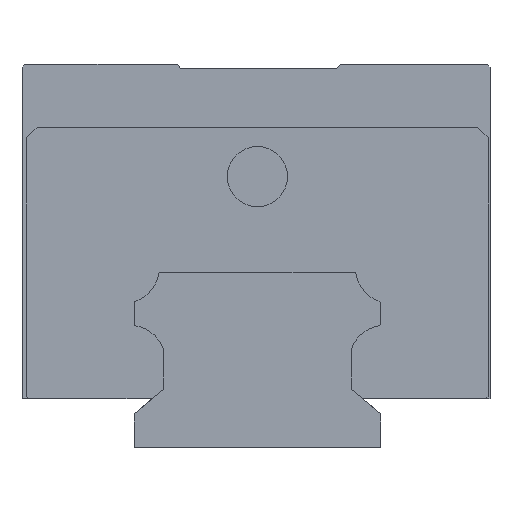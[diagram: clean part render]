
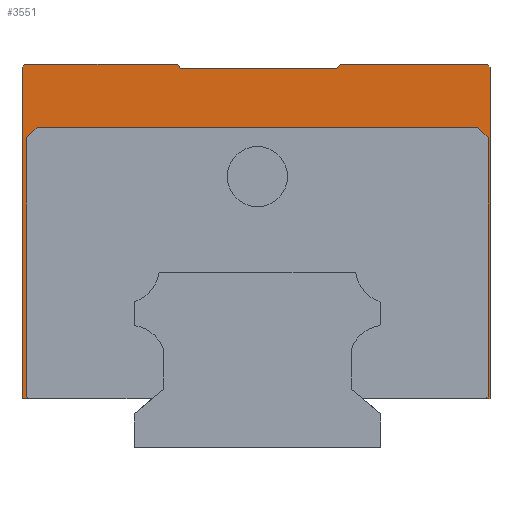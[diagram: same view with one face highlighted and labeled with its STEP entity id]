
A CAD part, left-side view. The second image highlights one B-rep face of the part: STEP entity #3551.
In plain terms, the highlighted planar face has unit normal (-1, 0, 0).
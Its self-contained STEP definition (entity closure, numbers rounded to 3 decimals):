
#19 = VECTOR ( 'NONE', #228, 1000. ) ;
#90 = ORIENTED_EDGE ( 'NONE', *, *, #2141, .F. ) ;
#104 = VECTOR ( 'NONE', #1499, 1000. ) ;
#105 = CARTESIAN_POINT ( 'NONE',  ( -53., -15.129, 70. ) ) ;
#116 = EDGE_CURVE ( 'NONE', #2657, #3044, #2728, .T. ) ;
#128 = CARTESIAN_POINT ( 'NONE',  ( -53., -15.129, 70. ) ) ;
#228 = DIRECTION ( 'NONE',  ( 0., 1., 0. ) ) ;
#233 = ORIENTED_EDGE ( 'NONE', *, *, #4958, .T. ) ;
#238 = EDGE_CURVE ( 'NONE', #4074, #2004, #2063, .T. ) ;
#243 = VERTEX_POINT ( 'NONE', #2192 ) ;
#263 = EDGE_CURVE ( 'NONE', #2643, #1804, #1400, .T. ) ;
#324 = FACE_OUTER_BOUND ( 'NONE', #4206, .T. ) ;
#389 = EDGE_CURVE ( 'NONE', #1538, #3501, #3514, .T. ) ;
#393 = EDGE_CURVE ( 'NONE', #4333, #2643, #1977, .T. ) ;
#403 = CARTESIAN_POINT ( 'NONE',  ( -53., 42.5, 70. ) ) ;
#410 = LINE ( 'NONE', #1995, #1442 ) ;
#490 = CARTESIAN_POINT ( 'NONE',  ( -53., -42.5, 8.9 ) ) ;
#498 = CARTESIAN_POINT ( 'NONE',  ( -53., -42., 70. ) ) ;
#578 = CARTESIAN_POINT ( 'NONE',  ( -53., 41.75, 8.9 ) ) ;
#707 = DIRECTION ( 'NONE',  ( 0., 0.707, 0.707 ) ) ;
#755 = DIRECTION ( 'NONE',  ( 0., 0.643, 0.766 ) ) ;
#810 = LINE ( 'NONE', #3211, #1893 ) ;
#831 = LINE ( 'NONE', #3346, #3737 ) ;
#923 = CARTESIAN_POINT ( 'NONE',  ( -53., -42.15, 9.3 ) ) ;
#935 = ORIENTED_EDGE ( 'NONE', *, *, #3012, .F. ) ;
#936 = ORIENTED_EDGE ( 'NONE', *, *, #4739, .F. ) ;
#1003 = LINE ( 'NONE', #3883, #2875 ) ;
#1055 = CARTESIAN_POINT ( 'NONE',  ( -53., -42.15, 56.6 ) ) ;
#1085 = VECTOR ( 'NONE', #4349, 1000. ) ;
#1104 = CARTESIAN_POINT ( 'NONE',  ( -53., -42.5, 70. ) ) ;
#1117 = ORIENTED_EDGE ( 'NONE', *, *, #3486, .F. ) ;
#1175 = DIRECTION ( 'NONE',  ( 0., 0., 1. ) ) ;
#1219 = CARTESIAN_POINT ( 'NONE',  ( -53., 14.629, 70. ) ) ;
#1259 = DIRECTION ( 'NONE',  ( 0., -0.707, 0.707 ) ) ;
#1358 = VERTEX_POINT ( 'NONE', #3230 ) ;
#1373 = ORIENTED_EDGE ( 'NONE', *, *, #2170, .T. ) ;
#1400 = LINE ( 'NONE', #2268, #2528 ) ;
#1422 = VECTOR ( 'NONE', #2827, 1000. ) ;
#1442 = VECTOR ( 'NONE', #1259, 1000. ) ;
#1490 = CARTESIAN_POINT ( 'NONE',  ( -53., 42.5, 70. ) ) ;
#1499 = DIRECTION ( 'NONE',  ( 0., 0.707, -0.707 ) ) ;
#1538 = VERTEX_POINT ( 'NONE', #3442 ) ;
#1571 = EDGE_CURVE ( 'NONE', #1358, #2180, #3089, .T. ) ;
#1582 = VERTEX_POINT ( 'NONE', #2669 ) ;
#1594 = EDGE_CURVE ( 'NONE', #2004, #1538, #1003, .T. ) ;
#1663 = CARTESIAN_POINT ( 'NONE',  ( -53., 42.15, 9.3 ) ) ;
#1789 = VERTEX_POINT ( 'NONE', #923 ) ;
#1804 = VERTEX_POINT ( 'NONE', #2564 ) ;
#1824 = DIRECTION ( 'NONE',  ( 0., -0.707, -0.707 ) ) ;
#1825 = DIRECTION ( 'NONE',  ( 0., 1., 0. ) ) ;
#1849 = VECTOR ( 'NONE', #1824, 1000. ) ;
#1893 = VECTOR ( 'NONE', #755, 1000. ) ;
#1977 = LINE ( 'NONE', #1104, #1422 ) ;
#1995 = CARTESIAN_POINT ( 'NONE',  ( -53., -41.75, 8.9 ) ) ;
#2004 = VERTEX_POINT ( 'NONE', #578 ) ;
#2063 = LINE ( 'NONE', #1663, #1849 ) ;
#2075 = ORIENTED_EDGE ( 'NONE', *, *, #393, .F. ) ;
#2076 = CARTESIAN_POINT ( 'NONE',  ( -53., 40.25, 58.5 ) ) ;
#2106 = LINE ( 'NONE', #2930, #2740 ) ;
#2141 = EDGE_CURVE ( 'NONE', #1789, #1358, #3978, .T. ) ;
#2170 = EDGE_CURVE ( 'NONE', #4333, #4738, #3109, .T. ) ;
#2173 = CARTESIAN_POINT ( 'NONE',  ( -53., -40.25, 58.5 ) ) ;
#2180 = VERTEX_POINT ( 'NONE', #3949 ) ;
#2192 = CARTESIAN_POINT ( 'NONE',  ( -53., -14.5, 69.25 ) ) ;
#2251 = LINE ( 'NONE', #2173, #19 ) ;
#2268 = CARTESIAN_POINT ( 'NONE',  ( -53., -43., 8.9 ) ) ;
#2272 = CARTESIAN_POINT ( 'NONE',  ( -53., 42.15, 9.3 ) ) ;
#2291 = DIRECTION ( 'NONE',  ( 0., -1., 0. ) ) ;
#2528 = VECTOR ( 'NONE', #3838, 1000. ) ;
#2564 = CARTESIAN_POINT ( 'NONE',  ( -53., -41.75, 8.9 ) ) ;
#2633 = EDGE_CURVE ( 'NONE', #2657, #3501, #831, .T. ) ;
#2643 = VERTEX_POINT ( 'NONE', #490 ) ;
#2657 = VERTEX_POINT ( 'NONE', #403 ) ;
#2669 = CARTESIAN_POINT ( 'NONE',  ( -53., 42.15, 56.6 ) ) ;
#2728 = LINE ( 'NONE', #4324, #1085 ) ;
#2740 = VECTOR ( 'NONE', #4525, 1000. ) ;
#2778 = VECTOR ( 'NONE', #3146, 1000. ) ;
#2827 = DIRECTION ( 'NONE',  ( 0., 0., -1. ) ) ;
#2875 = VECTOR ( 'NONE', #1825, 1000. ) ;
#2924 = ORIENTED_EDGE ( 'NONE', *, *, #5057, .T. ) ;
#2930 = CARTESIAN_POINT ( 'NONE',  ( -53., 42.15, 56.6 ) ) ;
#2938 = CARTESIAN_POINT ( 'NONE',  ( -53., 14., 69.25 ) ) ;
#2962 = VERTEX_POINT ( 'NONE', #128 ) ;
#3012 = EDGE_CURVE ( 'NONE', #5141, #1582, #3471, .T. ) ;
#3029 = ORIENTED_EDGE ( 'NONE', *, *, #116, .F. ) ;
#3044 = VERTEX_POINT ( 'NONE', #1219 ) ;
#3056 = VECTOR ( 'NONE', #707, 1000. ) ;
#3089 = LINE ( 'NONE', #1055, #4465 ) ;
#3109 = LINE ( 'NONE', #3215, #3056 ) ;
#3124 = PLANE ( 'NONE',  #5063 ) ;
#3146 = DIRECTION ( 'NONE',  ( 0., 0., 1. ) ) ;
#3189 = CARTESIAN_POINT ( 'NONE',  ( -53., 43., 8.9 ) ) ;
#3211 = CARTESIAN_POINT ( 'NONE',  ( -53., 14., 69.25 ) ) ;
#3215 = CARTESIAN_POINT ( 'NONE',  ( -53., -42.5, 69.5 ) ) ;
#3227 = VERTEX_POINT ( 'NONE', #2938 ) ;
#3230 = CARTESIAN_POINT ( 'NONE',  ( -53., -42.15, 56.6 ) ) ;
#3237 = DIRECTION ( 'NONE',  ( 0., 0.707, -0.707 ) ) ;
#3285 = CARTESIAN_POINT ( 'NONE',  ( -53., -14.5, 69.25 ) ) ;
#3323 = DIRECTION ( 'NONE',  ( 0., 0.643, -0.766 ) ) ;
#3346 = CARTESIAN_POINT ( 'NONE',  ( -53., 42.5, 70. ) ) ;
#3359 = EDGE_CURVE ( 'NONE', #2962, #4738, #5074, .T. ) ;
#3386 = CARTESIAN_POINT ( 'NONE',  ( -53., -42.5, 69.5 ) ) ;
#3393 = VECTOR ( 'NONE', #1175, 1000. ) ;
#3442 = CARTESIAN_POINT ( 'NONE',  ( -53., 43., 8.9 ) ) ;
#3471 = LINE ( 'NONE', #5062, #104 ) ;
#3472 = VECTOR ( 'NONE', #2291, 1000. ) ;
#3486 = EDGE_CURVE ( 'NONE', #1804, #1789, #410, .T. ) ;
#3501 = VERTEX_POINT ( 'NONE', #4422 ) ;
#3504 = DIRECTION ( 'NONE',  ( 0., 1., 0. ) ) ;
#3514 = LINE ( 'NONE', #3189, #2778 ) ;
#3551 = ADVANCED_FACE ( 'NONE', ( #324 ), #3124, .F. ) ;
#3663 = EDGE_CURVE ( 'NONE', #243, #3227, #4874, .T. ) ;
#3737 = VECTOR ( 'NONE', #3237, 1000. ) ;
#3794 = LINE ( 'NONE', #105, #4413 ) ;
#3823 = EDGE_CURVE ( 'NONE', #2180, #5141, #2251, .T. ) ;
#3838 = DIRECTION ( 'NONE',  ( 0., 1., 0. ) ) ;
#3883 = CARTESIAN_POINT ( 'NONE',  ( -53., 19.554, 8.9 ) ) ;
#3949 = CARTESIAN_POINT ( 'NONE',  ( -53., -40.25, 58.5 ) ) ;
#3978 = LINE ( 'NONE', #4777, #3393 ) ;
#4074 = VERTEX_POINT ( 'NONE', #2272 ) ;
#4206 = EDGE_LOOP ( 'NONE', ( #4677, #936, #935, #4260, #4568, #90, #1117, #4693, #2075, #1373, #4773, #2924, #4283, #233, #3029, #4817, #4717, #4956 ) ) ;
#4260 = ORIENTED_EDGE ( 'NONE', *, *, #3823, .F. ) ;
#4283 = ORIENTED_EDGE ( 'NONE', *, *, #3663, .T. ) ;
#4324 = CARTESIAN_POINT ( 'NONE',  ( -53., 42.5, 70. ) ) ;
#4333 = VERTEX_POINT ( 'NONE', #3386 ) ;
#4349 = DIRECTION ( 'NONE',  ( 0., -1., 0. ) ) ;
#4413 = VECTOR ( 'NONE', #3323, 1000. ) ;
#4422 = CARTESIAN_POINT ( 'NONE',  ( -53., 43., 69.5 ) ) ;
#4465 = VECTOR ( 'NONE', #4707, 1000. ) ;
#4513 = DIRECTION ( 'NONE',  ( 0., 1., 0. ) ) ;
#4525 = DIRECTION ( 'NONE',  ( 0., 0., -1. ) ) ;
#4568 = ORIENTED_EDGE ( 'NONE', *, *, #1571, .F. ) ;
#4677 = ORIENTED_EDGE ( 'NONE', *, *, #238, .F. ) ;
#4693 = ORIENTED_EDGE ( 'NONE', *, *, #263, .F. ) ;
#4707 = DIRECTION ( 'NONE',  ( 0., 0.707, 0.707 ) ) ;
#4717 = ORIENTED_EDGE ( 'NONE', *, *, #389, .F. ) ;
#4738 = VERTEX_POINT ( 'NONE', #498 ) ;
#4739 = EDGE_CURVE ( 'NONE', #1582, #4074, #2106, .T. ) ;
#4773 = ORIENTED_EDGE ( 'NONE', *, *, #3359, .F. ) ;
#4777 = CARTESIAN_POINT ( 'NONE',  ( -53., -42.15, 9.3 ) ) ;
#4817 = ORIENTED_EDGE ( 'NONE', *, *, #2633, .T. ) ;
#4874 = LINE ( 'NONE', #3285, #4977 ) ;
#4956 = ORIENTED_EDGE ( 'NONE', *, *, #1594, .F. ) ;
#4958 = EDGE_CURVE ( 'NONE', #3227, #3044, #810, .T. ) ;
#4977 = VECTOR ( 'NONE', #4513, 1000. ) ;
#5057 = EDGE_CURVE ( 'NONE', #2962, #243, #3794, .T. ) ;
#5062 = CARTESIAN_POINT ( 'NONE',  ( -53., 40.25, 58.5 ) ) ;
#5063 = AXIS2_PLACEMENT_3D ( 'NONE', #5185, #5136, #3504 ) ;
#5074 = LINE ( 'NONE', #1490, #3472 ) ;
#5136 = DIRECTION ( 'NONE',  ( 1., 0., 0. ) ) ;
#5141 = VERTEX_POINT ( 'NONE', #2076 ) ;
#5185 = CARTESIAN_POINT ( 'NONE',  ( -53., -43., 70. ) ) ;
